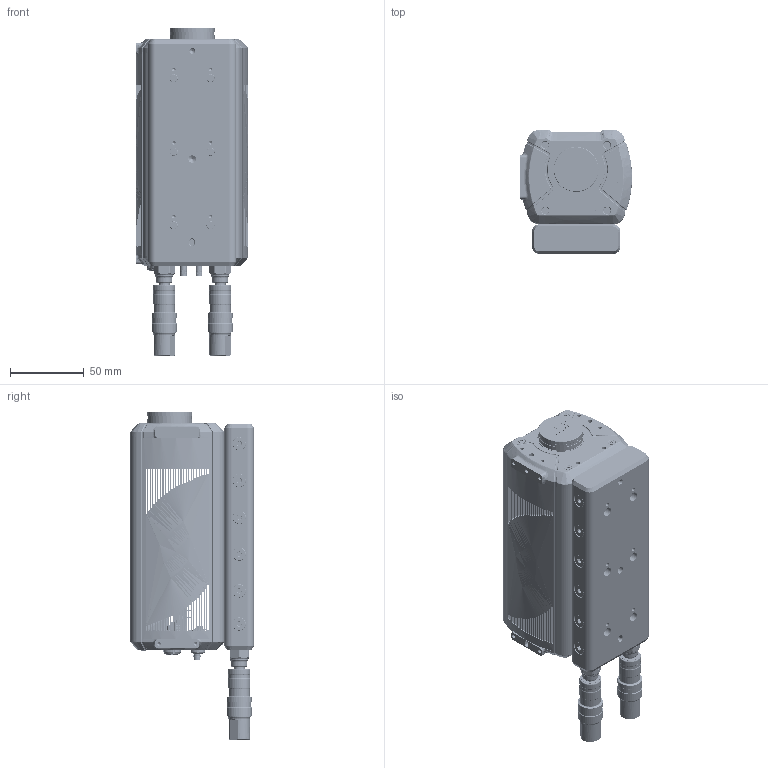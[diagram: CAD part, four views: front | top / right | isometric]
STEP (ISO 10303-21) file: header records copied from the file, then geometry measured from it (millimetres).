
FILE_DESCRIPTION (( 'STEP AP214' ), '1' );
FILE_NAME ('FLI011-310-PE004-A01 C-Blue One Mechanical interface + Cooler.STEP', '2022-11-22T10:33:14', ( '' ), ( '' ), 'SwSTEP 2.0', 'SolidWorks 2021', '' );
FILE_SCHEMA (( 'AUTOMOTIVE_DESIGN' ));
Length unit declared in the file: millimetre
Products named in the file (1): FLI011-310-PE004-A01 C-Blue One Mechanical interface + Cooler
Bounding box: 76.2 x 84.15 x 222.94 mm (x, y, z)
Volume: 290380.7 mm3; surface area: 185132.2 mm2
Topology: 98 solids, 98 shells, 9013 faces, 24290 edges, 15619 vertices
Faces by surface type: plane 4915, cylinder 2588, bspline 723, cone 584, torus 169, sphere 34
Entity records: 408756 total; most frequent: CARTESIAN_POINT 87100, ORIENTED_EDGE 48404, DIRECTION 42709, EDGE_CURVE 24202, VECTOR 15791, LINE 15791, VERTEX_POINT 15619, AXIS2_PLACEMENT_3D 13459
